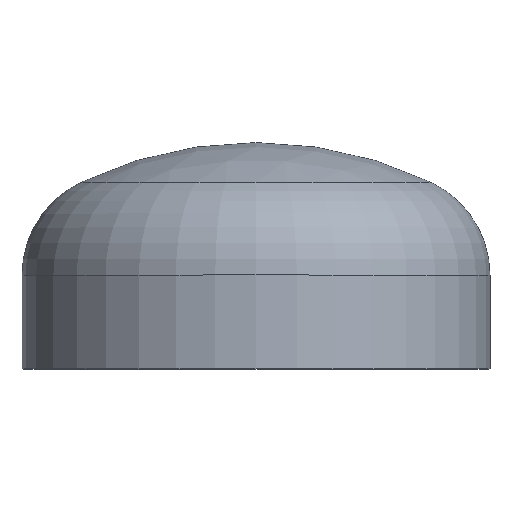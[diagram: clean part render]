
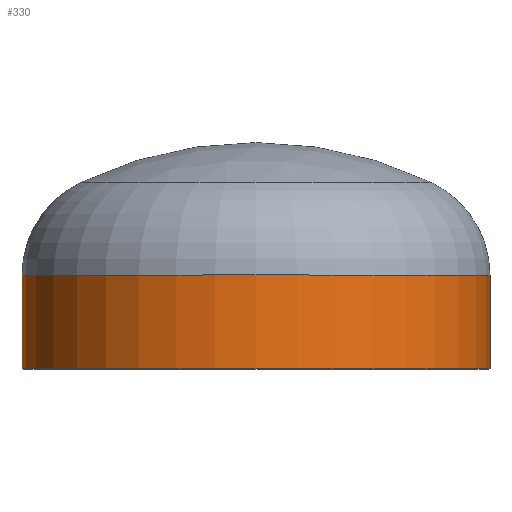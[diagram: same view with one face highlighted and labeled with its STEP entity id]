
A CAD part, top view. The second image highlights one B-rep face of the part: STEP entity #330.
In plain terms, the highlighted cylindrical face has radius 300 mm (diameter 600 mm), a partial arc.
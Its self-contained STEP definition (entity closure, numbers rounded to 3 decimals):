
#8 = CIRCLE ( 'NONE', #285, 300. ) ;
#26 = FACE_OUTER_BOUND ( 'NONE', #372, .T. ) ;
#33 = CARTESIAN_POINT ( 'NONE',  ( 0., 0., 0. ) ) ;
#34 = ORIENTED_EDGE ( 'NONE', *, *, #63, .T. ) ;
#55 = AXIS2_PLACEMENT_3D ( 'NONE', #318, #317, #315 ) ;
#56 = EDGE_CURVE ( 'NONE', #377, #359, #116, .T. ) ;
#63 = EDGE_CURVE ( 'NONE', #92, #377, #334, .T. ) ;
#65 = DIRECTION ( 'NONE',  ( 1., 0., 0. ) ) ;
#76 = DIRECTION ( 'NONE',  ( 1., 0., 0. ) ) ;
#82 = CARTESIAN_POINT ( 'NONE',  ( 300., 0., 0. ) ) ;
#92 = VERTEX_POINT ( 'NONE', #194 ) ;
#93 = CARTESIAN_POINT ( 'NONE',  ( 300., 0., 0. ) ) ;
#99 = ORIENTED_EDGE ( 'NONE', *, *, #56, .T. ) ;
#107 = VECTOR ( 'NONE', #217, 1000. ) ;
#111 = CYLINDRICAL_SURFACE ( 'NONE', #230, 300. ) ;
#116 = LINE ( 'NONE', #238, #107 ) ;
#118 = CARTESIAN_POINT ( 'NONE',  ( -300., 0., 0. ) ) ;
#166 = ORIENTED_EDGE ( 'NONE', *, *, #385, .F. ) ;
#194 = CARTESIAN_POINT ( 'NONE',  ( 300., 120., 0. ) ) ;
#199 = LINE ( 'NONE', #82, #337 ) ;
#217 = DIRECTION ( 'NONE',  ( 0., -1., 0. ) ) ;
#230 = AXIS2_PLACEMENT_3D ( 'NONE', #367, #269, #65 ) ;
#238 = CARTESIAN_POINT ( 'NONE',  ( -300., 0., 0. ) ) ;
#250 = DIRECTION ( 'NONE',  ( 0., -1., 0. ) ) ;
#269 = DIRECTION ( 'NONE',  ( 0., -1., 0. ) ) ;
#285 = AXIS2_PLACEMENT_3D ( 'NONE', #33, #250, #76 ) ;
#303 = DIRECTION ( 'NONE',  ( 0., -1., 0. ) ) ;
#315 = DIRECTION ( 'NONE',  ( 1., 0., 0. ) ) ;
#317 = DIRECTION ( 'NONE',  ( 0., -1., 0. ) ) ;
#318 = CARTESIAN_POINT ( 'NONE',  ( 0., 120., 0. ) ) ;
#330 = ADVANCED_FACE ( 'NONE', ( #26 ), #111, .T. ) ;
#334 = CIRCLE ( 'NONE', #55, 300. ) ;
#337 = VECTOR ( 'NONE', #303, 1000. ) ;
#356 = EDGE_CURVE ( 'NONE', #92, #411, #199, .T. ) ;
#359 = VERTEX_POINT ( 'NONE', #118 ) ;
#367 = CARTESIAN_POINT ( 'NONE',  ( 0., 0., 0. ) ) ;
#372 = EDGE_LOOP ( 'NONE', ( #34, #99, #166, #383 ) ) ;
#377 = VERTEX_POINT ( 'NONE', #381 ) ;
#381 = CARTESIAN_POINT ( 'NONE',  ( -300., 120., 0. ) ) ;
#383 = ORIENTED_EDGE ( 'NONE', *, *, #356, .F. ) ;
#385 = EDGE_CURVE ( 'NONE', #411, #359, #8, .T. ) ;
#411 = VERTEX_POINT ( 'NONE', #93 ) ;
